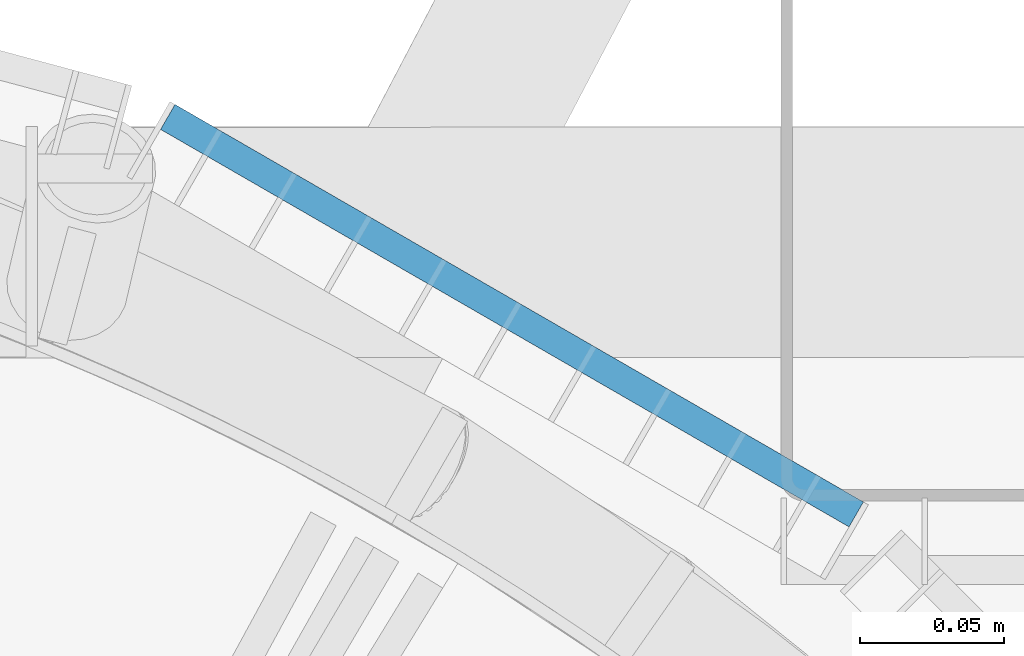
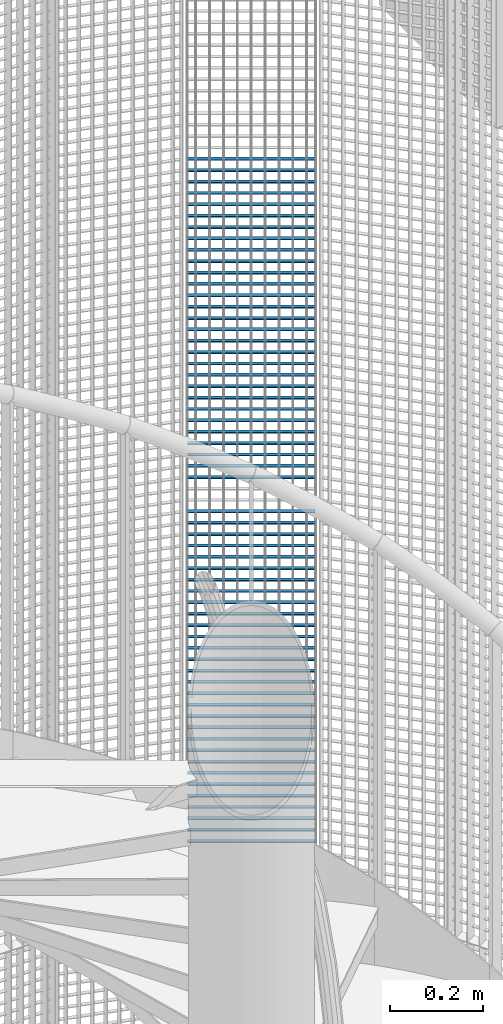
# One storey, part 332 of 1183: 59 beams, 1 element without a shape of its own.
"""IFC2X3 building model written with IfcOpenShell, lengths in millimetres."""

import ifcopenshell
import ifcopenshell.guid

model = None  # the IFC model being written
_history = None  # IfcOwnerHistory: only IFC2X3 demands one
_inside = {}  # id of a spatial element -> (the spatial element, [elements in it])
_under = {}  # id of a project, library or spatial element -> (it, [spatial elements below it])
_declared = {}  # id of a project -> (the project, [libraries it declares])
_typed = {}  # id of a type object -> (the type object, [elements of that type])
_made_of = {}  # id of a material, layer set ... -> (it, [elements and type objects made of it])


def new_model(schema):
    """Start an empty IFC model of exactly this schema.

    Asked for "IFC4X3", IfcOpenShell would pick the latest addendum, in which some entities
    have other attributes; the version numbers below select the first issue.
    IFC2X3 requires an IfcOwnerHistory on every rooted entity: one is made here for all.
    """
    global model, _history
    if schema == "IFC4X3":
        model = ifcopenshell.file(schema_version=(4, 3, 0, 0))
    else:
        model = ifcopenshell.file(schema=schema)
    _inside.clear()
    _under.clear()
    _declared.clear()
    _typed.clear()
    _made_of.clear()
    _history = None
    if model.schema == "IFC2X3":
        org = make("IfcOrganization", Name="unknown")
        user = make(
            "IfcPersonAndOrganization",
            ThePerson=make("IfcPerson", FamilyName="unknown"),
            TheOrganization=org,
        )
        app = make(
            "IfcApplication",
            ApplicationDeveloper=org,
            Version="unknown",
            ApplicationFullName="unknown",
            ApplicationIdentifier="unknown",
        )
        _history = make(
            "IfcOwnerHistory",
            OwningUser=user,
            OwningApplication=app,
            ChangeAction="ADDED",
            CreationDate=0,
        )
    return model


def make(cls, **values):
    """One entity of the class cls with the attributes given. An attribute that is None is left unset."""
    return model.create_entity(
        cls, **{name: value for name, value in values.items() if value is not None}
    )


def rooted(cls, **values):
    """An entity with a GlobalId (a new one), such as an element, a storey or a relation."""
    return make(cls, GlobalId=ifcopenshell.guid.new(), OwnerHistory=_history, **values)


def si_unit(unit_type, name, prefix=None):
    """IfcSIUnit, for example si_unit("LENGTHUNIT", "METRE", prefix="MILLI")."""
    return make("IfcSIUnit", UnitType=unit_type, Prefix=prefix, Name=name)


def assignment(units):
    """IfcUnitAssignment: the units of a project."""
    return None if units is None else make("IfcUnitAssignment", Units=units)


def point(xyz):
    """IfcCartesianPoint."""
    return None if xyz is None else make("IfcCartesianPoint", Coordinates=xyz)


def direction(xyz):
    """IfcDirection."""
    return None if xyz is None else make("IfcDirection", DirectionRatios=xyz)


def frame(location, z_axis=None, x_axis=None):
    """IfcAxis2Placement3D, a coordinate frame: its origin and axes. An axis left out is left unset."""
    return make(
        "IfcAxis2Placement3D",
        Location=point(location),
        Axis=direction(z_axis),
        RefDirection=direction(x_axis),
    )


def frame_2d(location, x_axis=None):
    """IfcAxis2Placement2D, a coordinate frame in the plane: its origin and x axis."""
    return make(
        "IfcAxis2Placement2D", Location=point(location), RefDirection=direction(x_axis)
    )


def origin_with_axes():
    """The frame at (0, 0, 0) with the z axis (0, 0, 1) and the x axis (1, 0, 0) written out."""
    return frame((0.0, 0.0, 0.0), z_axis=(0.0, 0.0, 1.0), x_axis=(1.0, 0.0, 0.0))


def origin_2d_with_axis():
    """The frame at (0, 0) in the plane with the x axis (1, 0) written out."""
    return frame_2d((0.0, 0.0), x_axis=(1.0, 0.0))


def place(relative_to, where):
    """IfcLocalPlacement: puts the frame where relative to a parent placement (None: the world)."""
    return make(
        "IfcLocalPlacement", PlacementRelTo=relative_to, RelativePlacement=where
    )


def context(
    kind, dimensions, precision=None, world=None, true_north=None, identifier=None
):
    """IfcGeometricRepresentationContext, for example the 3D "Model" context."""
    return make(
        "IfcGeometricRepresentationContext",
        ContextIdentifier=identifier,
        ContextType=kind,
        CoordinateSpaceDimension=dimensions,
        Precision=precision,
        WorldCoordinateSystem=world,
        TrueNorth=true_north,
    )


def subcontext(parent, identifier, kind, view, scale=None):
    """IfcGeometricRepresentationSubContext, for example "Body" below "Model"."""
    return make(
        "IfcGeometricRepresentationSubContext",
        ContextIdentifier=identifier,
        ContextType=kind,
        ParentContext=parent,
        TargetScale=scale,
        TargetView=view,
    )


def project(units=None, contexts=None):
    """IfcProject with its units and contexts."""
    return rooted(
        "IfcProject",
        Name="project",
        RepresentationContexts=contexts,
        UnitsInContext=assignment(units),
    )


def spatial(cls, under=None, at=None, **own):
    """A site, building, storey or space (cls), placed at a placement, below another one or the project."""
    s = rooted(cls, ObjectPlacement=at, **own)
    if under is not None:
        _under.setdefault(under.id(), (under, []))[1].append(s)
    return s


def profile(cls, at=None, kind="AREA", **sizes):
    """A parametric profile (cls). Its sizes go by their IFC names, for example OverallWidth=200.0."""
    return make(cls, ProfileType=kind, Position=at, **sizes)


def rectangle(**sizes):
    """IfcRectangleProfileDef."""
    return profile("IfcRectangleProfileDef", **sizes)


def extrude(swept, where, along, depth):
    """IfcExtrudedAreaSolid: the profile swept, set in the frame where, extruded along a direction by depth."""
    return make(
        "IfcExtrudedAreaSolid",
        SweptArea=swept,
        Position=where,
        ExtrudedDirection=direction(along),
        Depth=depth,
    )


def shape(context_of_items, identifier, shape_type, items):
    """IfcShapeRepresentation: the items that make up one representation, for example the "Body"."""
    return make(
        "IfcShapeRepresentation",
        ContextOfItems=context_of_items,
        RepresentationIdentifier=identifier,
        RepresentationType=shape_type,
        Items=items,
    )


def material(Name=None, Category=None):
    """IfcMaterial."""
    return make("IfcMaterial", Name=Name, Category=Category)


def made_of(thing, what):
    """Note that an element or type object is made of a material, layer set ...; save() writes the relation."""
    if what is not None:
        _made_of.setdefault(what.id(), (what, []))[1].append(thing)
    return thing


def type_object(cls, material=None, **own):
    """A type object (cls), such as IfcWallType, which elements share."""
    return made_of(rooted(cls, **own), material)


def element(
    cls,
    number,
    at=None,
    inside=None,
    cuts=None,
    type_object=None,
    material=None,
    context=None,
    identifier="Body",
    shape_type=None,
    held_by="IfcProductDefinitionShape",
    body=None,
    shapes=None,
    **own,
):
    """One element of the class cls, such as IfcWall. Its Tag is "e" and its number.

    at: its placement. inside: the storey or other place that contains it. cuts: it is an
    opening in that element (IfcRelVoidsElement). A single representation is given by context,
    identifier, shape_type and body (its items); several are given by shapes. held_by: the class
    of the entity that holds the representations. save() writes the other relations.
    """
    e = rooted(cls, Tag="e%d" % number, ObjectPlacement=at, **own)
    if body is not None:
        shapes = [shape(context, identifier, shape_type, body)]
    if shapes is not None:
        e.Representation = make(held_by, Representations=shapes)
    if inside is not None:
        _inside.setdefault(inside.id(), (inside, []))[1].append(e)
    if cuts is not None:
        rooted(
            "IfcRelVoidsElement", RelatingBuildingElement=cuts, RelatedOpeningElement=e
        )
    if type_object is not None:
        _typed.setdefault(type_object.id(), (type_object, []))[1].append(e)
    return made_of(e, material)


def aggregate(whole, parts):
    """IfcRelAggregates: a whole, such as a stair, and the parts it consists of."""
    return rooted("IfcRelAggregates", RelatingObject=whole, RelatedObjects=parts)


def save(model, path):
    """Write the relations noted so far, then the file.

    IfcRelAggregates (storeys below a building ...), IfcRelContainedInSpatialStructure (elements
    in a storey), IfcRelDefinesByType, IfcRelAssociatesMaterial and IfcRelDeclares: one each for
    every whole, place, type object, material and project.
    """
    for whole, parts in _under.values():
        aggregate(whole, parts)
    for where, things in _inside.values():
        rooted(
            "IfcRelContainedInSpatialStructure",
            RelatedElements=things,
            RelatingStructure=where,
        )
    for kind, things in _typed.values():
        rooted("IfcRelDefinesByType", RelatedObjects=things, RelatingType=kind)
    for what, things in _made_of.values():
        rooted("IfcRelAssociatesMaterial", RelatedObjects=things, RelatingMaterial=what)
    for by, libraries in _declared.values():
        rooted("IfcRelDeclares", RelatingContext=by, RelatedDefinitions=libraries)
    model.write(path)


model = new_model("IFC2X3")

# Units and contexts
model_context = context("Model", 3, precision=1e-05, world=origin_with_axes())
body_context = subcontext(model_context, "Body", "Model", "MODEL_VIEW")
ifc_project = project(units=[si_unit("LENGTHUNIT", "METRE", prefix="MILLI"), si_unit("AREAUNIT", "SQUARE_METRE"), si_unit("VOLUMEUNIT", "CUBIC_METRE"), si_unit("MASSUNIT", "GRAM", prefix="KILO"), si_unit("TIMEUNIT", "SECOND"), si_unit("PLANEANGLEUNIT", "RADIAN"), si_unit("SOLIDANGLEUNIT", "STERADIAN"), si_unit("THERMODYNAMICTEMPERATUREUNIT", "DEGREE_CELSIUS"), si_unit("LUMINOUSINTENSITYUNIT", "LUMEN")], contexts=[model_context])

# Site, building, storey
site_placement = place(None, origin_with_axes())
site = spatial("IfcSite", under=ifc_project, at=site_placement, Name="Undefined", CompositionType="ELEMENT")
building_placement = place(site_placement, origin_with_axes())
building = spatial("IfcBuilding", under=site, at=building_placement, Name="Undefined", CompositionType="ELEMENT")
storey_placement = place(building_placement, origin_with_axes())
storey = spatial("IfcBuildingStorey", under=building, at=storey_placement, Name="Undefined", CompositionType="ELEMENT", Elevation=0.0)

# Assembly, beams
assembly_placement = place(storey_placement, origin_with_axes())
assembly = element("IfcElementAssembly", 1, at=assembly_placement, inside=storey, Name="BORDURE", AssemblyPlace="NOTDEFINED", PredefinedType="NOTDEFINED")
ifc_material = material(Name="STEEL/S235JR")
beam_type = type_object("IfcBeamType", Name="PL2*10", PredefinedType="NOTDEFINED")
beam_1_placement = place(assembly_placement, frame((676.248044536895, 895.303964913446, 4980.0), z_axis=(0.49999999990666, 0.866025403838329, 0.0), x_axis=(-0.866025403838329, 0.499999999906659, 0.0)))
beam_1 = element("IfcBeam", 2, at=beam_1_placement, type_object=beam_type, material=ifc_material, Name="ENTRETOISE", context=body_context, shape_type="SweptSolid", body=[
    extrude(rectangle(XDim=2.0, YDim=10.0, at=origin_2d_with_axis()), frame((275.999999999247, 9.09494701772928e-13, 1.53210777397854e-14), z_axis=(-1.0, 0.0, 0.0), x_axis=(0.0, -1.0, 0.0)), (0.0, 0.0, 1.0), 276.0),
])
beam_2_placement = place(assembly_placement, frame((676.248044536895, 895.303964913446, 4950.0), z_axis=(0.49999999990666, 0.866025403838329, 0.0), x_axis=(-0.866025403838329, 0.499999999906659, 0.0)))
beam_2 = element("IfcBeam", 3, at=beam_2_placement, type_object=beam_type, material=ifc_material, Name="ENTRETOISE", context=body_context, shape_type="SweptSolid", body=[
    extrude(rectangle(XDim=2.0, YDim=10.0, at=origin_2d_with_axis()), frame((275.999999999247, 9.09494701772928e-13, 1.53210777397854e-14), z_axis=(-1.0, 0.0, 0.0), x_axis=(0.0, -1.0, 0.0)), (0.0, 0.0, 1.0), 276.0),
])
beam_3_placement = place(assembly_placement, frame((676.248044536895, 895.303964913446, 4920.0), z_axis=(0.49999999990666, 0.866025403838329, 0.0), x_axis=(-0.866025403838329, 0.499999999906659, 0.0)))
beam_3 = element("IfcBeam", 4, at=beam_3_placement, type_object=beam_type, material=ifc_material, Name="ENTRETOISE", context=body_context, shape_type="SweptSolid", body=[
    extrude(rectangle(XDim=2.0, YDim=10.0, at=origin_2d_with_axis()), frame((275.999999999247, 9.09494701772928e-13, 1.53210777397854e-14), z_axis=(-1.0, 0.0, 0.0), x_axis=(0.0, -1.0, 0.0)), (0.0, 0.0, 1.0), 276.0),
])
beam_4_placement = place(assembly_placement, frame((676.248044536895, 895.303964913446, 4890.0), z_axis=(0.49999999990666, 0.866025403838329, 0.0), x_axis=(-0.866025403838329, 0.499999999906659, 0.0)))
beam_4 = element("IfcBeam", 5, at=beam_4_placement, type_object=beam_type, material=ifc_material, Name="ENTRETOISE", context=body_context, shape_type="SweptSolid", body=[
    extrude(rectangle(XDim=2.0, YDim=10.0, at=origin_2d_with_axis()), frame((275.999999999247, 9.09494701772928e-13, 1.53210777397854e-14), z_axis=(-1.0, 0.0, 0.0), x_axis=(0.0, -1.0, 0.0)), (0.0, 0.0, 1.0), 276.0),
])
beam_5_placement = place(assembly_placement, frame((676.248044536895, 895.303964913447, 4860.0), z_axis=(0.49999999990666, 0.866025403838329, 0.0), x_axis=(-0.866025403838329, 0.499999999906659, 0.0)))
beam_5 = element("IfcBeam", 6, at=beam_5_placement, type_object=beam_type, material=ifc_material, Name="ENTRETOISE", context=body_context, shape_type="SweptSolid", body=[
    extrude(rectangle(XDim=2.0, YDim=10.0, at=origin_2d_with_axis()), frame((275.999999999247, 9.09494701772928e-13, 1.53210777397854e-14), z_axis=(-1.0, 0.0, 0.0), x_axis=(0.0, -1.0, 0.0)), (0.0, 0.0, 1.0), 276.0),
])
beam_6_placement = place(assembly_placement, frame((676.248044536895, 895.303964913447, 4830.0), z_axis=(0.49999999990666, 0.866025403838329, 0.0), x_axis=(-0.866025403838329, 0.499999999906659, 0.0)))
beam_6 = element("IfcBeam", 7, at=beam_6_placement, type_object=beam_type, material=ifc_material, Name="ENTRETOISE", context=body_context, shape_type="SweptSolid", body=[
    extrude(rectangle(XDim=2.0, YDim=10.0, at=origin_2d_with_axis()), frame((275.999999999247, 9.09494701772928e-13, 1.53210777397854e-14), z_axis=(-1.0, 0.0, 0.0), x_axis=(0.0, -1.0, 0.0)), (0.0, 0.0, 1.0), 276.0),
])
beam_7_placement = place(assembly_placement, frame((676.248044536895, 895.303964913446, 4800.0), z_axis=(0.49999999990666, 0.866025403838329, 0.0), x_axis=(-0.866025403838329, 0.499999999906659, 0.0)))
beam_7 = element("IfcBeam", 8, at=beam_7_placement, type_object=beam_type, material=ifc_material, Name="ENTRETOISE", context=body_context, shape_type="SweptSolid", body=[
    extrude(rectangle(XDim=2.0, YDim=10.0, at=origin_2d_with_axis()), frame((275.999999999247, 9.09494701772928e-13, 1.53210777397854e-14), z_axis=(-1.0, 0.0, 0.0), x_axis=(0.0, -1.0, 0.0)), (0.0, 0.0, 1.0), 276.0),
])
beam_8_placement = place(assembly_placement, frame((676.248044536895, 895.303964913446, 4770.0), z_axis=(0.49999999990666, 0.866025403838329, 0.0), x_axis=(-0.866025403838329, 0.499999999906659, 0.0)))
beam_8 = element("IfcBeam", 9, at=beam_8_placement, type_object=beam_type, material=ifc_material, Name="ENTRETOISE", context=body_context, shape_type="SweptSolid", body=[
    extrude(rectangle(XDim=2.0, YDim=10.0, at=origin_2d_with_axis()), frame((275.999999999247, 9.09494701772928e-13, 1.53210777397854e-14), z_axis=(-1.0, 0.0, 0.0), x_axis=(0.0, -1.0, 0.0)), (0.0, 0.0, 1.0), 276.0),
])
beam_9_placement = place(assembly_placement, frame((676.248044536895, 895.303964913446, 4740.0), z_axis=(0.49999999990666, 0.866025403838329, 0.0), x_axis=(-0.866025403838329, 0.499999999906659, 0.0)))
beam_9 = element("IfcBeam", 10, at=beam_9_placement, type_object=beam_type, material=ifc_material, Name="ENTRETOISE", context=body_context, shape_type="SweptSolid", body=[
    extrude(rectangle(XDim=2.0, YDim=10.0, at=origin_2d_with_axis()), frame((275.999999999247, 9.09494701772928e-13, 1.53210777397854e-14), z_axis=(-1.0, 0.0, 0.0), x_axis=(0.0, -1.0, 0.0)), (0.0, 0.0, 1.0), 276.0),
])
beam_10_placement = place(assembly_placement, frame((676.248044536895, 895.303964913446, 4710.0), z_axis=(0.49999999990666, 0.866025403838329, 0.0), x_axis=(-0.866025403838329, 0.499999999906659, 0.0)))
beam_10 = element("IfcBeam", 11, at=beam_10_placement, type_object=beam_type, material=ifc_material, Name="ENTRETOISE", context=body_context, shape_type="SweptSolid", body=[
    extrude(rectangle(XDim=2.0, YDim=10.0, at=origin_2d_with_axis()), frame((275.999999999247, 9.09494701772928e-13, 1.53210777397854e-14), z_axis=(-1.0, 0.0, 0.0), x_axis=(0.0, -1.0, 0.0)), (0.0, 0.0, 1.0), 276.0),
])
beam_11_placement = place(assembly_placement, frame((676.248044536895, 895.303964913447, 4680.0), z_axis=(0.49999999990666, 0.866025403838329, 0.0), x_axis=(-0.866025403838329, 0.499999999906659, 0.0)))
beam_11 = element("IfcBeam", 12, at=beam_11_placement, type_object=beam_type, material=ifc_material, Name="ENTRETOISE", context=body_context, shape_type="SweptSolid", body=[
    extrude(rectangle(XDim=2.0, YDim=10.0, at=origin_2d_with_axis()), frame((275.999999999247, 9.09494701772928e-13, 1.53210777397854e-14), z_axis=(-1.0, 0.0, 0.0), x_axis=(0.0, -1.0, 0.0)), (0.0, 0.0, 1.0), 276.0),
])
beam_12_placement = place(assembly_placement, frame((676.248044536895, 895.303964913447, 4650.0), z_axis=(0.49999999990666, 0.866025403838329, 0.0), x_axis=(-0.866025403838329, 0.499999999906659, 0.0)))
beam_12 = element("IfcBeam", 13, at=beam_12_placement, type_object=beam_type, material=ifc_material, Name="ENTRETOISE", context=body_context, shape_type="SweptSolid", body=[
    extrude(rectangle(XDim=2.0, YDim=10.0, at=origin_2d_with_axis()), frame((275.999999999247, 9.09494701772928e-13, 1.53210777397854e-14), z_axis=(-1.0, 0.0, 0.0), x_axis=(0.0, -1.0, 0.0)), (0.0, 0.0, 1.0), 276.0),
])
beam_13_placement = place(assembly_placement, frame((676.248044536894, 895.303964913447, 4620.0), z_axis=(0.49999999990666, 0.866025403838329, 0.0), x_axis=(-0.866025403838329, 0.499999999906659, 0.0)))
beam_13 = element("IfcBeam", 14, at=beam_13_placement, type_object=beam_type, material=ifc_material, Name="ENTRETOISE", context=body_context, shape_type="SweptSolid", body=[
    extrude(rectangle(XDim=2.0, YDim=10.0, at=origin_2d_with_axis()), frame((275.999999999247, 9.09494701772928e-13, 1.53210777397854e-14), z_axis=(-1.0, 0.0, 0.0), x_axis=(0.0, -1.0, 0.0)), (0.0, 0.0, 1.0), 276.0),
])
beam_14_placement = place(assembly_placement, frame((676.248044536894, 895.303964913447, 4590.0), z_axis=(0.49999999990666, 0.866025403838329, 0.0), x_axis=(-0.866025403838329, 0.499999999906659, 0.0)))
beam_14 = element("IfcBeam", 15, at=beam_14_placement, type_object=beam_type, material=ifc_material, Name="ENTRETOISE", context=body_context, shape_type="SweptSolid", body=[
    extrude(rectangle(XDim=2.0, YDim=10.0, at=origin_2d_with_axis()), frame((275.999999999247, 9.09494701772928e-13, 1.53210777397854e-14), z_axis=(-1.0, 0.0, 0.0), x_axis=(0.0, -1.0, 0.0)), (0.0, 0.0, 1.0), 276.0),
])
beam_15_placement = place(assembly_placement, frame((676.248044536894, 895.303964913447, 4560.0), z_axis=(0.49999999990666, 0.866025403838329, 0.0), x_axis=(-0.866025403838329, 0.499999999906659, 0.0)))
beam_15 = element("IfcBeam", 16, at=beam_15_placement, type_object=beam_type, material=ifc_material, Name="ENTRETOISE", context=body_context, shape_type="SweptSolid", body=[
    extrude(rectangle(XDim=2.0, YDim=10.0, at=origin_2d_with_axis()), frame((275.999999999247, 9.09494701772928e-13, 1.53210777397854e-14), z_axis=(-1.0, 0.0, 0.0), x_axis=(0.0, -1.0, 0.0)), (0.0, 0.0, 1.0), 276.0),
])
beam_16_placement = place(assembly_placement, frame((676.248044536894, 895.303964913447, 4530.0), z_axis=(0.49999999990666, 0.866025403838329, 0.0), x_axis=(-0.866025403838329, 0.499999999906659, 0.0)))
beam_16 = element("IfcBeam", 17, at=beam_16_placement, type_object=beam_type, material=ifc_material, Name="ENTRETOISE", context=body_context, shape_type="SweptSolid", body=[
    extrude(rectangle(XDim=2.0, YDim=10.0, at=origin_2d_with_axis()), frame((275.999999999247, 9.09494701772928e-13, 1.53210777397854e-14), z_axis=(-1.0, 0.0, 0.0), x_axis=(0.0, -1.0, 0.0)), (0.0, 0.0, 1.0), 276.0),
])
beam_17_placement = place(assembly_placement, frame((676.248044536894, 895.303964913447, 4500.0), z_axis=(0.49999999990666, 0.866025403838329, 0.0), x_axis=(-0.866025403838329, 0.499999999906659, 0.0)))
beam_17 = element("IfcBeam", 18, at=beam_17_placement, type_object=beam_type, material=ifc_material, Name="ENTRETOISE", context=body_context, shape_type="SweptSolid", body=[
    extrude(rectangle(XDim=2.0, YDim=10.0, at=origin_2d_with_axis()), frame((275.999999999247, 9.09494701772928e-13, 1.53210777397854e-14), z_axis=(-1.0, 0.0, 0.0), x_axis=(0.0, -1.0, 0.0)), (0.0, 0.0, 1.0), 276.0),
])
beam_18_placement = place(assembly_placement, frame((676.248044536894, 895.303964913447, 4470.0), z_axis=(0.49999999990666, 0.866025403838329, 0.0), x_axis=(-0.866025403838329, 0.499999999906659, 0.0)))
beam_18 = element("IfcBeam", 19, at=beam_18_placement, type_object=beam_type, material=ifc_material, Name="ENTRETOISE", context=body_context, shape_type="SweptSolid", body=[
    extrude(rectangle(XDim=2.0, YDim=10.0, at=origin_2d_with_axis()), frame((275.999999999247, 9.09494701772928e-13, 1.53210777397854e-14), z_axis=(-1.0, 0.0, 0.0), x_axis=(0.0, -1.0, 0.0)), (0.0, 0.0, 1.0), 276.0),
])
beam_19_placement = place(assembly_placement, frame((676.248044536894, 895.303964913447, 4440.0), z_axis=(0.49999999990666, 0.866025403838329, 0.0), x_axis=(-0.866025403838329, 0.499999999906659, 0.0)))
beam_19 = element("IfcBeam", 20, at=beam_19_placement, type_object=beam_type, material=ifc_material, Name="ENTRETOISE", context=body_context, shape_type="SweptSolid", body=[
    extrude(rectangle(XDim=2.0, YDim=10.0, at=origin_2d_with_axis()), frame((275.999999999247, 9.09494701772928e-13, 1.53210777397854e-14), z_axis=(-1.0, 0.0, 0.0), x_axis=(0.0, -1.0, 0.0)), (0.0, 0.0, 1.0), 276.0),
])
beam_20_placement = place(assembly_placement, frame((676.248044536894, 895.303964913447, 4410.0), z_axis=(0.49999999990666, 0.866025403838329, 0.0), x_axis=(-0.866025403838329, 0.499999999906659, 0.0)))
beam_20 = element("IfcBeam", 21, at=beam_20_placement, type_object=beam_type, material=ifc_material, Name="ENTRETOISE", context=body_context, shape_type="SweptSolid", body=[
    extrude(rectangle(XDim=2.0, YDim=10.0, at=origin_2d_with_axis()), frame((275.999999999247, 9.09494701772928e-13, 1.53210777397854e-14), z_axis=(-1.0, 0.0, 0.0), x_axis=(0.0, -1.0, 0.0)), (0.0, 0.0, 1.0), 276.0),
])
beam_21_placement = place(assembly_placement, frame((676.248044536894, 895.303964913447, 4380.0), z_axis=(0.49999999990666, 0.866025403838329, 0.0), x_axis=(-0.866025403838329, 0.499999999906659, 0.0)))
beam_21 = element("IfcBeam", 22, at=beam_21_placement, type_object=beam_type, material=ifc_material, Name="ENTRETOISE", context=body_context, shape_type="SweptSolid", body=[
    extrude(rectangle(XDim=2.0, YDim=10.0, at=origin_2d_with_axis()), frame((275.999999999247, 9.09494701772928e-13, 1.53210777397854e-14), z_axis=(-1.0, 0.0, 0.0), x_axis=(0.0, -1.0, 0.0)), (0.0, 0.0, 1.0), 276.0),
])
beam_22_placement = place(assembly_placement, frame((676.248044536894, 895.303964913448, 4350.0), z_axis=(0.49999999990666, 0.866025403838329, 0.0), x_axis=(-0.866025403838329, 0.499999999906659, 0.0)))
beam_22 = element("IfcBeam", 23, at=beam_22_placement, type_object=beam_type, material=ifc_material, Name="ENTRETOISE", context=body_context, shape_type="SweptSolid", body=[
    extrude(rectangle(XDim=2.0, YDim=10.0, at=origin_2d_with_axis()), frame((275.999999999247, 9.09494701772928e-13, 1.53210777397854e-14), z_axis=(-1.0, 0.0, 0.0), x_axis=(0.0, -1.0, 0.0)), (0.0, 0.0, 1.0), 276.0),
])
beam_23_placement = place(assembly_placement, frame((676.248044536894, 895.303964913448, 4320.0), z_axis=(0.49999999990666, 0.866025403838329, 0.0), x_axis=(-0.866025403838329, 0.499999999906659, 0.0)))
beam_23 = element("IfcBeam", 24, at=beam_23_placement, type_object=beam_type, material=ifc_material, Name="ENTRETOISE", context=body_context, shape_type="SweptSolid", body=[
    extrude(rectangle(XDim=2.0, YDim=10.0, at=origin_2d_with_axis()), frame((275.999999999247, 9.09494701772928e-13, 1.53210777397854e-14), z_axis=(-1.0, 0.0, 0.0), x_axis=(0.0, -1.0, 0.0)), (0.0, 0.0, 1.0), 276.0),
])
beam_24_placement = place(assembly_placement, frame((676.248044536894, 895.303964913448, 4290.0), z_axis=(0.49999999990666, 0.866025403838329, 0.0), x_axis=(-0.866025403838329, 0.499999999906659, 0.0)))
beam_24 = element("IfcBeam", 25, at=beam_24_placement, type_object=beam_type, material=ifc_material, Name="ENTRETOISE", context=body_context, shape_type="SweptSolid", body=[
    extrude(rectangle(XDim=2.0, YDim=10.0, at=origin_2d_with_axis()), frame((275.999999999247, 9.09494701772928e-13, 1.53210777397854e-14), z_axis=(-1.0, 0.0, 0.0), x_axis=(0.0, -1.0, 0.0)), (0.0, 0.0, 1.0), 276.0),
])
beam_25_placement = place(assembly_placement, frame((676.248044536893, 895.303964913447, 4260.0), z_axis=(0.49999999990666, 0.866025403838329, 0.0), x_axis=(-0.866025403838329, 0.499999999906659, 0.0)))
beam_25 = element("IfcBeam", 26, at=beam_25_placement, type_object=beam_type, material=ifc_material, Name="ENTRETOISE", context=body_context, shape_type="SweptSolid", body=[
    extrude(rectangle(XDim=2.0, YDim=10.0, at=origin_2d_with_axis()), frame((275.999999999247, 9.09494701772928e-13, 1.53210777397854e-14), z_axis=(-1.0, 0.0, 0.0), x_axis=(0.0, -1.0, 0.0)), (0.0, 0.0, 1.0), 276.0),
])
beam_26_placement = place(assembly_placement, frame((676.248044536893, 895.303964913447, 4230.0), z_axis=(0.49999999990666, 0.866025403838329, 0.0), x_axis=(-0.866025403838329, 0.499999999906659, 0.0)))
beam_26 = element("IfcBeam", 27, at=beam_26_placement, type_object=beam_type, material=ifc_material, Name="ENTRETOISE", context=body_context, shape_type="SweptSolid", body=[
    extrude(rectangle(XDim=2.0, YDim=10.0, at=origin_2d_with_axis()), frame((275.999999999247, 9.09494701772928e-13, 1.53210777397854e-14), z_axis=(-1.0, 0.0, 0.0), x_axis=(0.0, -1.0, 0.0)), (0.0, 0.0, 1.0), 276.0),
])
beam_27_placement = place(assembly_placement, frame((676.248044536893, 895.303964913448, 4200.0), z_axis=(0.49999999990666, 0.866025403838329, 0.0), x_axis=(-0.866025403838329, 0.499999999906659, 0.0)))
beam_27 = element("IfcBeam", 28, at=beam_27_placement, type_object=beam_type, material=ifc_material, Name="ENTRETOISE", context=body_context, shape_type="SweptSolid", body=[
    extrude(rectangle(XDim=2.0, YDim=10.0, at=origin_2d_with_axis()), frame((275.999999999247, 9.09494701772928e-13, 1.53210777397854e-14), z_axis=(-1.0, 0.0, 0.0), x_axis=(0.0, -1.0, 0.0)), (0.0, 0.0, 1.0), 276.0),
])
beam_28_placement = place(assembly_placement, frame((676.248044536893, 895.303964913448, 4170.0), z_axis=(0.49999999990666, 0.866025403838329, 0.0), x_axis=(-0.866025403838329, 0.499999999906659, 0.0)))
beam_28 = element("IfcBeam", 29, at=beam_28_placement, type_object=beam_type, material=ifc_material, Name="ENTRETOISE", context=body_context, shape_type="SweptSolid", body=[
    extrude(rectangle(XDim=2.0, YDim=10.0, at=origin_2d_with_axis()), frame((275.999999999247, 9.09494701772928e-13, 1.53210777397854e-14), z_axis=(-1.0, 0.0, 0.0), x_axis=(0.0, -1.0, 0.0)), (0.0, 0.0, 1.0), 276.0),
])
beam_29_placement = place(assembly_placement, frame((676.248044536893, 895.303964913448, 4140.0), z_axis=(0.49999999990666, 0.866025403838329, 0.0), x_axis=(-0.866025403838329, 0.499999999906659, 0.0)))
beam_29 = element("IfcBeam", 30, at=beam_29_placement, type_object=beam_type, material=ifc_material, Name="ENTRETOISE", context=body_context, shape_type="SweptSolid", body=[
    extrude(rectangle(XDim=2.0, YDim=10.0, at=origin_2d_with_axis()), frame((275.999999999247, 9.09494701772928e-13, 1.53210777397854e-14), z_axis=(-1.0, 0.0, 0.0), x_axis=(0.0, -1.0, 0.0)), (0.0, 0.0, 1.0), 276.0),
])
beam_30_placement = place(assembly_placement, frame((676.248044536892, 895.303964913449, 3720.0), z_axis=(0.49999999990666, 0.866025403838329, 0.0), x_axis=(-0.866025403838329, 0.499999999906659, 0.0)))
beam_30 = element("IfcBeam", 31, at=beam_30_placement, type_object=beam_type, material=ifc_material, Name="ENTRETOISE", context=body_context, shape_type="SweptSolid", body=[
    extrude(rectangle(XDim=2.0, YDim=10.0, at=origin_2d_with_axis()), frame((275.999999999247, 9.09494701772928e-13, 1.53210777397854e-14), z_axis=(-1.0, 0.0, 0.0), x_axis=(0.0, -1.0, 0.0)), (0.0, 0.0, 1.0), 276.0),
])
beam_31_placement = place(assembly_placement, frame((676.248044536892, 895.303964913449, 3690.0), z_axis=(0.49999999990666, 0.866025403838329, 0.0), x_axis=(-0.866025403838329, 0.499999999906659, 0.0)))
beam_31 = element("IfcBeam", 32, at=beam_31_placement, type_object=beam_type, material=ifc_material, Name="ENTRETOISE", context=body_context, shape_type="SweptSolid", body=[
    extrude(rectangle(XDim=2.0, YDim=10.0, at=origin_2d_with_axis()), frame((275.999999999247, 9.09494701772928e-13, 1.53210777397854e-14), z_axis=(-1.0, 0.0, 0.0), x_axis=(0.0, -1.0, 0.0)), (0.0, 0.0, 1.0), 276.0),
])
beam_32_placement = place(assembly_placement, frame((676.248044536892, 895.303964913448, 3750.0), z_axis=(0.49999999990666, 0.866025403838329, 0.0), x_axis=(-0.866025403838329, 0.499999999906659, 0.0)))
beam_32 = element("IfcBeam", 33, at=beam_32_placement, type_object=beam_type, material=ifc_material, Name="ENTRETOISE", context=body_context, shape_type="SweptSolid", body=[
    extrude(rectangle(XDim=2.0, YDim=10.0, at=origin_2d_with_axis()), frame((275.999999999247, 9.09494701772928e-13, 1.53210777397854e-14), z_axis=(-1.0, 0.0, 0.0), x_axis=(0.0, -1.0, 0.0)), (0.0, 0.0, 1.0), 276.0),
])
beam_33_placement = place(assembly_placement, frame((676.248044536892, 895.303964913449, 3660.0), z_axis=(0.49999999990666, 0.866025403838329, 0.0), x_axis=(-0.866025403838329, 0.499999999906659, 0.0)))
beam_33 = element("IfcBeam", 34, at=beam_33_placement, type_object=beam_type, material=ifc_material, Name="ENTRETOISE", context=body_context, shape_type="SweptSolid", body=[
    extrude(rectangle(XDim=2.0, YDim=10.0, at=origin_2d_with_axis()), frame((275.999999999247, 9.09494701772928e-13, 1.53210777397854e-14), z_axis=(-1.0, 0.0, 0.0), x_axis=(0.0, -1.0, 0.0)), (0.0, 0.0, 1.0), 276.0),
])
beam_34_placement = place(assembly_placement, frame((676.248044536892, 895.303964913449, 3630.0), z_axis=(0.49999999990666, 0.866025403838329, 0.0), x_axis=(-0.866025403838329, 0.499999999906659, 0.0)))
beam_34 = element("IfcBeam", 35, at=beam_34_placement, type_object=beam_type, material=ifc_material, Name="ENTRETOISE", context=body_context, shape_type="SweptSolid", body=[
    extrude(rectangle(XDim=2.0, YDim=10.0, at=origin_2d_with_axis()), frame((275.999999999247, 9.09494701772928e-13, 1.53210777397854e-14), z_axis=(-1.0, 0.0, 0.0), x_axis=(0.0, -1.0, 0.0)), (0.0, 0.0, 1.0), 276.0),
])
beam_35_placement = place(assembly_placement, frame((676.248044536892, 895.303964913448, 3780.0), z_axis=(0.49999999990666, 0.866025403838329, 0.0), x_axis=(-0.866025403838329, 0.499999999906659, 0.0)))
beam_35 = element("IfcBeam", 36, at=beam_35_placement, type_object=beam_type, material=ifc_material, Name="ENTRETOISE", context=body_context, shape_type="SweptSolid", body=[
    extrude(rectangle(XDim=2.0, YDim=10.0, at=origin_2d_with_axis()), frame((275.999999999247, 9.09494701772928e-13, 1.53210777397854e-14), z_axis=(-1.0, 0.0, 0.0), x_axis=(0.0, -1.0, 0.0)), (0.0, 0.0, 1.0), 276.0),
])
beam_36_placement = place(assembly_placement, frame((676.248044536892, 895.303964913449, 3600.0), z_axis=(0.49999999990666, 0.866025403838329, 0.0), x_axis=(-0.866025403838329, 0.499999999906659, 0.0)))
beam_36 = element("IfcBeam", 37, at=beam_36_placement, type_object=beam_type, material=ifc_material, Name="ENTRETOISE", context=body_context, shape_type="SweptSolid", body=[
    extrude(rectangle(XDim=2.0, YDim=10.0, at=origin_2d_with_axis()), frame((275.999999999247, 9.09494701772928e-13, 1.53210777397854e-14), z_axis=(-1.0, 0.0, 0.0), x_axis=(0.0, -1.0, 0.0)), (0.0, 0.0, 1.0), 276.0),
])
beam_37_placement = place(assembly_placement, frame((676.248044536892, 895.303964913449, 3810.0), z_axis=(0.49999999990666, 0.866025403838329, 0.0), x_axis=(-0.866025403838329, 0.499999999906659, 0.0)))
beam_37 = element("IfcBeam", 38, at=beam_37_placement, type_object=beam_type, material=ifc_material, Name="ENTRETOISE", context=body_context, shape_type="SweptSolid", body=[
    extrude(rectangle(XDim=2.0, YDim=10.0, at=origin_2d_with_axis()), frame((275.999999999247, 9.09494701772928e-13, 1.53210777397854e-14), z_axis=(-1.0, 0.0, 0.0), x_axis=(0.0, -1.0, 0.0)), (0.0, 0.0, 1.0), 276.0),
])
beam_38_placement = place(assembly_placement, frame((676.248044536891, 895.303964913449, 3570.0), z_axis=(0.49999999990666, 0.866025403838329, 0.0), x_axis=(-0.866025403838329, 0.499999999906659, 0.0)))
beam_38 = element("IfcBeam", 39, at=beam_38_placement, type_object=beam_type, material=ifc_material, Name="ENTRETOISE", context=body_context, shape_type="SweptSolid", body=[
    extrude(rectangle(XDim=2.0, YDim=10.0, at=origin_2d_with_axis()), frame((275.999999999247, 9.09494701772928e-13, 1.53210777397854e-14), z_axis=(-1.0, 0.0, 0.0), x_axis=(0.0, -1.0, 0.0)), (0.0, 0.0, 1.0), 276.0),
])
beam_39_placement = place(assembly_placement, frame((676.248044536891, 895.303964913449, 3540.0), z_axis=(0.49999999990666, 0.866025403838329, 0.0), x_axis=(-0.866025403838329, 0.499999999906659, 0.0)))
beam_39 = element("IfcBeam", 40, at=beam_39_placement, type_object=beam_type, material=ifc_material, Name="ENTRETOISE", context=body_context, shape_type="SweptSolid", body=[
    extrude(rectangle(XDim=2.0, YDim=10.0, at=origin_2d_with_axis()), frame((275.999999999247, 9.09494701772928e-13, 1.53210777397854e-14), z_axis=(-1.0, 0.0, 0.0), x_axis=(0.0, -1.0, 0.0)), (0.0, 0.0, 1.0), 276.0),
])
beam_40_placement = place(assembly_placement, frame((676.248044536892, 895.303964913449, 3840.0), z_axis=(0.49999999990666, 0.866025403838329, 0.0), x_axis=(-0.866025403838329, 0.499999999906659, 0.0)))
beam_40 = element("IfcBeam", 41, at=beam_40_placement, type_object=beam_type, material=ifc_material, Name="ENTRETOISE", context=body_context, shape_type="SweptSolid", body=[
    extrude(rectangle(XDim=2.0, YDim=10.0, at=origin_2d_with_axis()), frame((275.999999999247, 9.09494701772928e-13, 1.53210777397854e-14), z_axis=(-1.0, 0.0, 0.0), x_axis=(0.0, -1.0, 0.0)), (0.0, 0.0, 1.0), 276.0),
])
beam_41_placement = place(assembly_placement, frame((676.248044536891, 895.303964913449, 3510.0), z_axis=(0.49999999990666, 0.866025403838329, 0.0), x_axis=(-0.866025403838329, 0.499999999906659, 0.0)))
beam_41 = element("IfcBeam", 42, at=beam_41_placement, type_object=beam_type, material=ifc_material, Name="ENTRETOISE", context=body_context, shape_type="SweptSolid", body=[
    extrude(rectangle(XDim=2.0, YDim=10.0, at=origin_2d_with_axis()), frame((275.999999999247, 9.09494701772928e-13, 1.53210777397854e-14), z_axis=(-1.0, 0.0, 0.0), x_axis=(0.0, -1.0, 0.0)), (0.0, 0.0, 1.0), 276.0),
])
beam_42_placement = place(assembly_placement, frame((676.248044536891, 895.303964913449, 3480.0), z_axis=(0.49999999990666, 0.866025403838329, 0.0), x_axis=(-0.866025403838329, 0.499999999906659, 0.0)))
beam_42 = element("IfcBeam", 43, at=beam_42_placement, type_object=beam_type, material=ifc_material, Name="ENTRETOISE", context=body_context, shape_type="SweptSolid", body=[
    extrude(rectangle(XDim=2.0, YDim=10.0, at=origin_2d_with_axis()), frame((275.999999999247, 9.09494701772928e-13, 1.53210777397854e-14), z_axis=(-1.0, 0.0, 0.0), x_axis=(0.0, -1.0, 0.0)), (0.0, 0.0, 1.0), 276.0),
])
beam_43_placement = place(assembly_placement, frame((676.248044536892, 895.303964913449, 3870.0), z_axis=(0.49999999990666, 0.866025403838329, 0.0), x_axis=(-0.866025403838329, 0.499999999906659, 0.0)))
beam_43 = element("IfcBeam", 44, at=beam_43_placement, type_object=beam_type, material=ifc_material, Name="ENTRETOISE", context=body_context, shape_type="SweptSolid", body=[
    extrude(rectangle(XDim=2.0, YDim=10.0, at=origin_2d_with_axis()), frame((275.999999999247, 9.09494701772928e-13, 1.53210777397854e-14), z_axis=(-1.0, 0.0, 0.0), x_axis=(0.0, -1.0, 0.0)), (0.0, 0.0, 1.0), 276.0),
])
beam_44_placement = place(assembly_placement, frame((676.248044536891, 895.303964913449, 3450.0), z_axis=(0.49999999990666, 0.866025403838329, 0.0), x_axis=(-0.866025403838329, 0.499999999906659, 0.0)))
beam_44 = element("IfcBeam", 45, at=beam_44_placement, type_object=beam_type, material=ifc_material, Name="ENTRETOISE", context=body_context, shape_type="SweptSolid", body=[
    extrude(rectangle(XDim=2.0, YDim=10.0, at=origin_2d_with_axis()), frame((275.999999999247, 9.09494701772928e-13, 1.53210777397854e-14), z_axis=(-1.0, 0.0, 0.0), x_axis=(0.0, -1.0, 0.0)), (0.0, 0.0, 1.0), 276.0),
])
beam_45_placement = place(assembly_placement, frame((676.248044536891, 895.303964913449, 3420.0), z_axis=(0.49999999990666, 0.866025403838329, 0.0), x_axis=(-0.866025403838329, 0.499999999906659, 0.0)))
beam_45 = element("IfcBeam", 46, at=beam_45_placement, type_object=beam_type, material=ifc_material, Name="ENTRETOISE", context=body_context, shape_type="SweptSolid", body=[
    extrude(rectangle(XDim=2.0, YDim=10.0, at=origin_2d_with_axis()), frame((275.999999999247, 9.09494701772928e-13, 1.53210777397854e-14), z_axis=(-1.0, 0.0, 0.0), x_axis=(0.0, -1.0, 0.0)), (0.0, 0.0, 1.0), 276.0),
])
beam_46_placement = place(assembly_placement, frame((676.248044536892, 895.303964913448, 3900.0), z_axis=(0.49999999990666, 0.866025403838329, 0.0), x_axis=(-0.866025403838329, 0.499999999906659, 0.0)))
beam_46 = element("IfcBeam", 47, at=beam_46_placement, type_object=beam_type, material=ifc_material, Name="ENTRETOISE", context=body_context, shape_type="SweptSolid", body=[
    extrude(rectangle(XDim=2.0, YDim=10.0, at=origin_2d_with_axis()), frame((275.999999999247, 9.09494701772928e-13, 1.53210777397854e-14), z_axis=(-1.0, 0.0, 0.0), x_axis=(0.0, -1.0, 0.0)), (0.0, 0.0, 1.0), 276.0),
])
beam_47_placement = place(assembly_placement, frame((676.248044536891, 895.30396491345, 3390.0), z_axis=(0.49999999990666, 0.866025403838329, 0.0), x_axis=(-0.866025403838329, 0.499999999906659, 0.0)))
beam_47 = element("IfcBeam", 48, at=beam_47_placement, type_object=beam_type, material=ifc_material, Name="ENTRETOISE", context=body_context, shape_type="SweptSolid", body=[
    extrude(rectangle(XDim=2.0, YDim=10.0, at=origin_2d_with_axis()), frame((275.999999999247, 9.09494701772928e-13, 1.53210777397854e-14), z_axis=(-1.0, 0.0, 0.0), x_axis=(0.0, -1.0, 0.0)), (0.0, 0.0, 1.0), 276.0),
])
beam_48_placement = place(assembly_placement, frame((676.248044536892, 895.303964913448, 3930.0), z_axis=(0.49999999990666, 0.866025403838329, 0.0), x_axis=(-0.866025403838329, 0.499999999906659, 0.0)))
beam_48 = element("IfcBeam", 49, at=beam_48_placement, type_object=beam_type, material=ifc_material, Name="ENTRETOISE", context=body_context, shape_type="SweptSolid", body=[
    extrude(rectangle(XDim=2.0, YDim=10.0, at=origin_2d_with_axis()), frame((275.999999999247, 9.09494701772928e-13, 1.53210777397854e-14), z_axis=(-1.0, 0.0, 0.0), x_axis=(0.0, -1.0, 0.0)), (0.0, 0.0, 1.0), 276.0),
])
beam_49_placement = place(assembly_placement, frame((676.248044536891, 895.30396491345, 3360.0), z_axis=(0.49999999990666, 0.866025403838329, 0.0), x_axis=(-0.866025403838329, 0.499999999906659, 0.0)))
beam_49 = element("IfcBeam", 50, at=beam_49_placement, type_object=beam_type, material=ifc_material, Name="ENTRETOISE", context=body_context, shape_type="SweptSolid", body=[
    extrude(rectangle(XDim=2.0, YDim=10.0, at=origin_2d_with_axis()), frame((275.999999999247, 9.09494701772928e-13, 1.53210777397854e-14), z_axis=(-1.0, 0.0, 0.0), x_axis=(0.0, -1.0, 0.0)), (0.0, 0.0, 1.0), 276.0),
])
beam_50_placement = place(assembly_placement, frame((676.248044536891, 895.303964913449, 3330.0), z_axis=(0.49999999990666, 0.866025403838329, 0.0), x_axis=(-0.866025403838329, 0.499999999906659, 0.0)))
beam_50 = element("IfcBeam", 51, at=beam_50_placement, type_object=beam_type, material=ifc_material, Name="ENTRETOISE", context=body_context, shape_type="SweptSolid", body=[
    extrude(rectangle(XDim=2.0, YDim=10.0, at=origin_2d_with_axis()), frame((275.999999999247, 9.09494701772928e-13, 1.53210777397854e-14), z_axis=(-1.0, 0.0, 0.0), x_axis=(0.0, -1.0, 0.0)), (0.0, 0.0, 1.0), 276.0),
])
beam_51_placement = place(assembly_placement, frame((676.248044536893, 895.303964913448, 3960.0), z_axis=(0.49999999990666, 0.866025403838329, 0.0), x_axis=(-0.866025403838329, 0.499999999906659, 0.0)))
beam_51 = element("IfcBeam", 52, at=beam_51_placement, type_object=beam_type, material=ifc_material, Name="ENTRETOISE", context=body_context, shape_type="SweptSolid", body=[
    extrude(rectangle(XDim=2.0, YDim=10.0, at=origin_2d_with_axis()), frame((275.999999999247, 9.09494701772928e-13, 1.53210777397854e-14), z_axis=(-1.0, 0.0, 0.0), x_axis=(0.0, -1.0, 0.0)), (0.0, 0.0, 1.0), 276.0),
])
beam_52_placement = place(assembly_placement, frame((676.248044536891, 895.303964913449, 3300.0), z_axis=(0.49999999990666, 0.866025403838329, 0.0), x_axis=(-0.866025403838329, 0.499999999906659, 0.0)))
beam_52 = element("IfcBeam", 53, at=beam_52_placement, type_object=beam_type, material=ifc_material, Name="ENTRETOISE", context=body_context, shape_type="SweptSolid", body=[
    extrude(rectangle(XDim=2.0, YDim=10.0, at=origin_2d_with_axis()), frame((275.999999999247, 9.09494701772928e-13, 1.53210777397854e-14), z_axis=(-1.0, 0.0, 0.0), x_axis=(0.0, -1.0, 0.0)), (0.0, 0.0, 1.0), 276.0),
])
beam_53_placement = place(assembly_placement, frame((676.24804453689, 895.303964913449, 3270.0), z_axis=(0.49999999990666, 0.866025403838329, 0.0), x_axis=(-0.866025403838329, 0.499999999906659, 0.0)))
beam_53 = element("IfcBeam", 54, at=beam_53_placement, type_object=beam_type, material=ifc_material, Name="ENTRETOISE", context=body_context, shape_type="SweptSolid", body=[
    extrude(rectangle(XDim=2.0, YDim=10.0, at=origin_2d_with_axis()), frame((275.999999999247, 9.09494701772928e-13, 1.53210777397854e-14), z_axis=(-1.0, 0.0, 0.0), x_axis=(0.0, -1.0, 0.0)), (0.0, 0.0, 1.0), 276.0),
])
beam_54_placement = place(assembly_placement, frame((676.248044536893, 895.303964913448, 3990.0), z_axis=(0.49999999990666, 0.866025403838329, 0.0), x_axis=(-0.866025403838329, 0.499999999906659, 0.0)))
beam_54 = element("IfcBeam", 55, at=beam_54_placement, type_object=beam_type, material=ifc_material, Name="ENTRETOISE", context=body_context, shape_type="SweptSolid", body=[
    extrude(rectangle(XDim=2.0, YDim=10.0, at=origin_2d_with_axis()), frame((275.999999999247, 9.09494701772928e-13, 1.53210777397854e-14), z_axis=(-1.0, 0.0, 0.0), x_axis=(0.0, -1.0, 0.0)), (0.0, 0.0, 1.0), 276.0),
])
beam_55_placement = place(assembly_placement, frame((676.24804453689, 895.30396491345, 3240.0), z_axis=(0.49999999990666, 0.866025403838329, 0.0), x_axis=(-0.866025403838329, 0.499999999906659, 0.0)))
beam_55 = element("IfcBeam", 56, at=beam_55_placement, type_object=beam_type, material=ifc_material, Name="ENTRETOISE", context=body_context, shape_type="SweptSolid", body=[
    extrude(rectangle(XDim=2.0, YDim=10.0, at=origin_2d_with_axis()), frame((275.999999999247, 9.09494701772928e-13, 1.53210777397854e-14), z_axis=(-1.0, 0.0, 0.0), x_axis=(0.0, -1.0, 0.0)), (0.0, 0.0, 1.0), 276.0),
])
beam_56_placement = place(assembly_placement, frame((676.248044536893, 895.303964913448, 4020.0), z_axis=(0.49999999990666, 0.866025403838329, 0.0), x_axis=(-0.866025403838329, 0.499999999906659, 0.0)))
beam_56 = element("IfcBeam", 57, at=beam_56_placement, type_object=beam_type, material=ifc_material, Name="ENTRETOISE", context=body_context, shape_type="SweptSolid", body=[
    extrude(rectangle(XDim=2.0, YDim=10.0, at=origin_2d_with_axis()), frame((275.999999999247, 9.09494701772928e-13, 1.53210777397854e-14), z_axis=(-1.0, 0.0, 0.0), x_axis=(0.0, -1.0, 0.0)), (0.0, 0.0, 1.0), 276.0),
])
beam_57_placement = place(assembly_placement, frame((676.24804453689, 895.30396491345, 3210.0), z_axis=(0.49999999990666, 0.866025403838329, 0.0), x_axis=(-0.866025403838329, 0.499999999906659, 0.0)))
beam_57 = element("IfcBeam", 58, at=beam_57_placement, type_object=beam_type, material=ifc_material, Name="ENTRETOISE", context=body_context, shape_type="SweptSolid", body=[
    extrude(rectangle(XDim=2.0, YDim=10.0, at=origin_2d_with_axis()), frame((275.999999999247, 9.09494701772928e-13, 1.53210777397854e-14), z_axis=(-1.0, 0.0, 0.0), x_axis=(0.0, -1.0, 0.0)), (0.0, 0.0, 1.0), 276.0),
])
beam_58_placement = place(assembly_placement, frame((676.24804453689, 895.30396491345, 3180.0), z_axis=(0.49999999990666, 0.866025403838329, 0.0), x_axis=(-0.866025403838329, 0.499999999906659, 0.0)))
beam_58 = element("IfcBeam", 59, at=beam_58_placement, type_object=beam_type, material=ifc_material, Name="ENTRETOISE", context=body_context, shape_type="SweptSolid", body=[
    extrude(rectangle(XDim=2.0, YDim=10.0, at=origin_2d_with_axis()), frame((275.999999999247, 9.09494701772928e-13, 1.53210777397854e-14), z_axis=(-1.0, 0.0, 0.0), x_axis=(0.0, -1.0, 0.0)), (0.0, 0.0, 1.0), 276.0),
])
beam_59_placement = place(assembly_placement, frame((676.248044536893, 895.303964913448, 4050.0), z_axis=(0.49999999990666, 0.866025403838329, 0.0), x_axis=(-0.866025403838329, 0.499999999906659, 0.0)))
beam_59 = element("IfcBeam", 60, at=beam_59_placement, type_object=beam_type, material=ifc_material, Name="ENTRETOISE", context=body_context, shape_type="SweptSolid", body=[
    extrude(rectangle(XDim=2.0, YDim=10.0, at=origin_2d_with_axis()), frame((275.999999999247, 9.09494701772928e-13, 1.53210777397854e-14), z_axis=(-1.0, 0.0, 0.0), x_axis=(0.0, -1.0, 0.0)), (0.0, 0.0, 1.0), 276.0),
])
aggregate(assembly, [beam_1, beam_2, beam_3, beam_4, beam_5, beam_6, beam_7, beam_8, beam_9, beam_10, beam_11, beam_12, beam_13, beam_14, beam_15, beam_16, beam_17, beam_18, beam_19, beam_20, beam_21, beam_22, beam_23, beam_24, beam_25, beam_26, beam_27, beam_28, beam_29, beam_30, beam_31, beam_32, beam_33, beam_34, beam_35, beam_36, beam_37, beam_38, beam_39, beam_40, beam_41, beam_42, beam_43, beam_44, beam_45, beam_46, beam_47, beam_48, beam_49, beam_50, beam_51, beam_52, beam_53, beam_54, beam_55, beam_56, beam_57, beam_58, beam_59])

save(model, "model.ifc")
